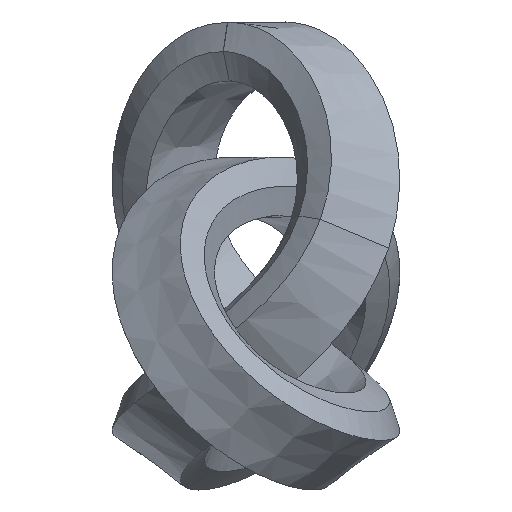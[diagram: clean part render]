
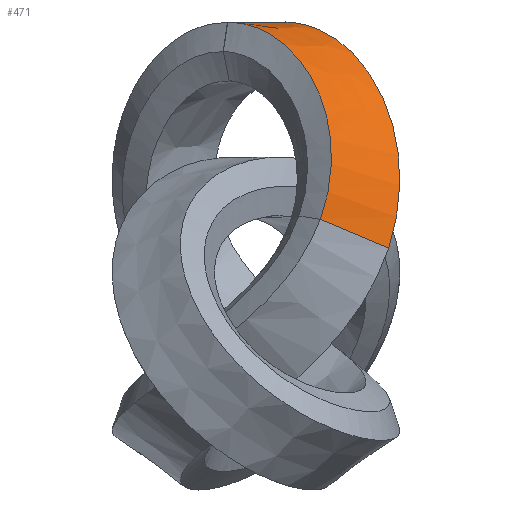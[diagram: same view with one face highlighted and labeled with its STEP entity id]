
A CAD part, left-side view. The second image highlights one B-rep face of the part: STEP entity #471.
In plain terms, the highlighted free-form (B-spline) face has degree [3, 3] with [4, 9] control points.
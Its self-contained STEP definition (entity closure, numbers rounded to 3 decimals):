
#23=B_SPLINE_CURVE_WITH_KNOTS('',3,(#855,#856,#857,#858,#859,#860,#861,
#862,#863),.UNSPECIFIED.,.F.,.F.,(4,1,1,1,1,1,4),(0.,0.016,
0.031,0.047,0.078,0.094,
0.109),.UNSPECIFIED.);
#24=B_SPLINE_CURVE_WITH_KNOTS('',3,(#902,#903,#904,#905,#906,#907,#908,
#909),.UNSPECIFIED.,.F.,.F.,(4,1,1,1,1,4),(0.,0.031,0.047,
0.078,0.094,0.109),.UNSPECIFIED.);
#53=FACE_OUTER_BOUND('',#85,.T.);
#85=EDGE_LOOP('',(#338,#339,#340,#341));
#121=LINE('',#654,#164);
#130=LINE('',#901,#173);
#164=VECTOR('',#514,10.);
#173=VECTOR('',#523,10.);
#202=VERTEX_POINT('',#632);
#204=VERTEX_POINT('',#653);
#210=VERTEX_POINT('',#853);
#211=VERTEX_POINT('',#900);
#244=EDGE_CURVE('',#204,#202,#121,.T.);
#257=EDGE_CURVE('',#210,#202,#23,.T.);
#258=EDGE_CURVE('',#211,#210,#130,.T.);
#259=EDGE_CURVE('',#211,#204,#24,.T.);
#338=ORIENTED_EDGE('',*,*,#258,.T.);
#339=ORIENTED_EDGE('',*,*,#257,.T.);
#340=ORIENTED_EDGE('',*,*,#244,.F.);
#341=ORIENTED_EDGE('',*,*,#259,.F.);
#441=B_SPLINE_SURFACE_WITH_KNOTS('',3,3,((#864,#865,#866,#867,#868,#869,
#870,#871,#872),(#873,#874,#875,#876,#877,#878,#879,#880,#881),(#882,#883,
#884,#885,#886,#887,#888,#889,#890),(#891,#892,#893,#894,#895,#896,#897,
#898,#899)),.UNSPECIFIED.,.F.,.F.,.F.,(4,4),(4,1,1,1,1,1,4),(0.,1.),(0.,
0.016,0.031,0.047,0.078,
0.094,0.109),.UNSPECIFIED.);
#471=ADVANCED_FACE('',(#53),#441,.T.);
#514=DIRECTION('',(0.803,-0.596,0.));
#523=DIRECTION('',(0.47,-0.813,-0.343));
#632=CARTESIAN_POINT('',(4.303,-2.591,46.795));
#653=CARTESIAN_POINT('',(-3.724,3.373,46.793));
#654=CARTESIAN_POINT('',(-3.724,3.373,46.793));
#853=CARTESIAN_POINT('',(-13.188,-15.8,19.881));
#855=CARTESIAN_POINT('Ctrl Pts',(-13.188,-15.8,19.881));
#856=CARTESIAN_POINT('Ctrl Pts',(-12.814,-16.404,21.715));
#857=CARTESIAN_POINT('Ctrl Pts',(-11.857,-17.216,25.487));
#858=CARTESIAN_POINT('Ctrl Pts',(-9.919,-17.17,31.102));
#859=CARTESIAN_POINT('Ctrl Pts',(-6.804,-15.531,38.074));
#860=CARTESIAN_POINT('Ctrl Pts',(-3.041,-11.764,43.665));
#861=CARTESIAN_POINT('Ctrl Pts',(1.14,-6.658,46.556));
#862=CARTESIAN_POINT('Ctrl Pts',(3.266,-3.922,46.902));
#863=CARTESIAN_POINT('Ctrl Pts',(4.303,-2.591,46.795));
#864=CARTESIAN_POINT('Ctrl Pts',(-17.892,-7.668,23.306));
#865=CARTESIAN_POINT('Ctrl Pts',(-17.681,-8.196,24.736));
#866=CARTESIAN_POINT('Ctrl Pts',(-17.094,-8.948,27.68));
#867=CARTESIAN_POINT('Ctrl Pts',(-15.775,-9.11,32.207));
#868=CARTESIAN_POINT('Ctrl Pts',(-13.49,-8.036,38.082));
#869=CARTESIAN_POINT('Ctrl Pts',(-10.492,-5.087,43.172));
#870=CARTESIAN_POINT('Ctrl Pts',(-6.81,-0.594,46.221));
#871=CARTESIAN_POINT('Ctrl Pts',(-4.767,2.034,46.791));
#872=CARTESIAN_POINT('Ctrl Pts',(-3.724,3.373,46.793));
#873=CARTESIAN_POINT('Ctrl Pts',(-16.324,-10.379,22.165));
#874=CARTESIAN_POINT('Ctrl Pts',(-16.059,-10.932,23.729));
#875=CARTESIAN_POINT('Ctrl Pts',(-15.348,-11.704,26.949));
#876=CARTESIAN_POINT('Ctrl Pts',(-13.823,-11.797,31.838));
#877=CARTESIAN_POINT('Ctrl Pts',(-11.261,-10.534,38.079));
#878=CARTESIAN_POINT('Ctrl Pts',(-8.008,-7.313,43.336));
#879=CARTESIAN_POINT('Ctrl Pts',(-4.16,-2.615,46.333));
#880=CARTESIAN_POINT('Ctrl Pts',(-2.089,0.048,46.828));
#881=CARTESIAN_POINT('Ctrl Pts',(-1.048,1.385,46.793));
#882=CARTESIAN_POINT('Ctrl Pts',(-14.756,-13.09,21.023));
#883=CARTESIAN_POINT('Ctrl Pts',(-14.436,-13.668,22.722));
#884=CARTESIAN_POINT('Ctrl Pts',(-13.603,-14.46,26.218));
#885=CARTESIAN_POINT('Ctrl Pts',(-11.871,-14.483,31.47));
#886=CARTESIAN_POINT('Ctrl Pts',(-9.032,-13.033,38.077));
#887=CARTESIAN_POINT('Ctrl Pts',(-5.524,-9.538,43.501));
#888=CARTESIAN_POINT('Ctrl Pts',(-1.51,-4.637,46.444));
#889=CARTESIAN_POINT('Ctrl Pts',(0.589,-1.937,46.865));
#890=CARTESIAN_POINT('Ctrl Pts',(1.627,-0.603,46.794));
#891=CARTESIAN_POINT('Ctrl Pts',(-13.188,-15.8,19.881));
#892=CARTESIAN_POINT('Ctrl Pts',(-12.814,-16.404,21.715));
#893=CARTESIAN_POINT('Ctrl Pts',(-11.857,-17.216,25.487));
#894=CARTESIAN_POINT('Ctrl Pts',(-9.919,-17.17,31.102));
#895=CARTESIAN_POINT('Ctrl Pts',(-6.804,-15.531,38.074));
#896=CARTESIAN_POINT('Ctrl Pts',(-3.041,-11.764,43.665));
#897=CARTESIAN_POINT('Ctrl Pts',(1.14,-6.658,46.556));
#898=CARTESIAN_POINT('Ctrl Pts',(3.266,-3.922,46.902));
#899=CARTESIAN_POINT('Ctrl Pts',(4.303,-2.591,46.795));
#900=CARTESIAN_POINT('',(-17.892,-7.668,23.306));
#901=CARTESIAN_POINT('',(-17.892,-7.668,23.306));
#902=CARTESIAN_POINT('Ctrl Pts',(-17.892,-7.668,23.306));
#903=CARTESIAN_POINT('Ctrl Pts',(-17.47,-8.723,26.166));
#904=CARTESIAN_POINT('Ctrl Pts',(-16.347,-9.379,30.737));
#905=CARTESIAN_POINT('Ctrl Pts',(-13.491,-8.033,38.086));
#906=CARTESIAN_POINT('Ctrl Pts',(-10.493,-5.086,43.172));
#907=CARTESIAN_POINT('Ctrl Pts',(-6.81,-0.594,46.222));
#908=CARTESIAN_POINT('Ctrl Pts',(-4.767,2.034,46.791));
#909=CARTESIAN_POINT('Ctrl Pts',(-3.724,3.373,46.793));
